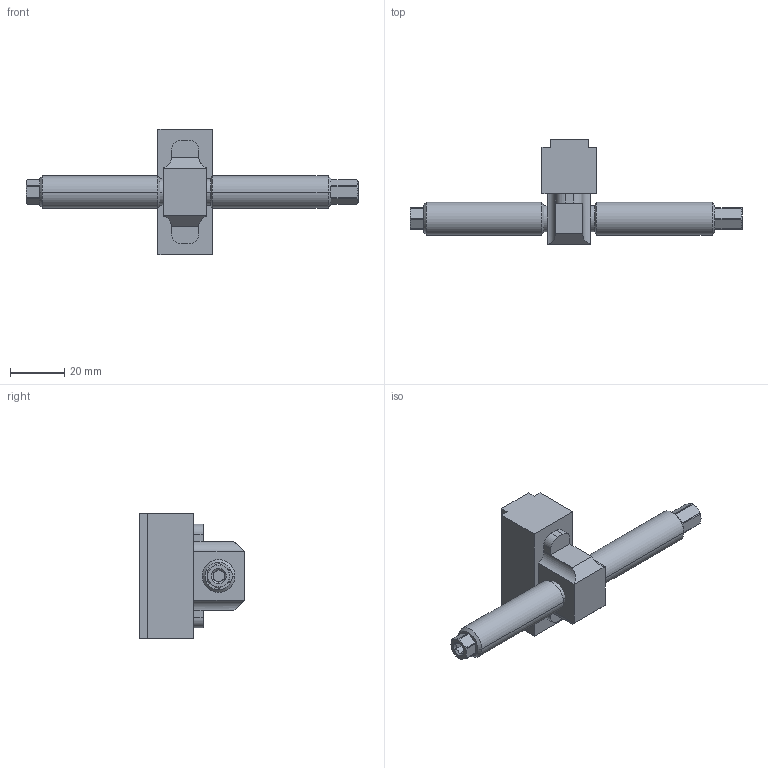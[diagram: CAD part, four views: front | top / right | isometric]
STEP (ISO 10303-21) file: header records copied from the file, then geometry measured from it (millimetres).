
FILE_DESCRIPTION (( 'STEP AP214' ), '1' );
FILE_NAME ('47105-TG.STEP', '2023-02-08T12:50:40', ( '' ), ( '' ), 'SwSTEP 2.0', 'SolidWorks 2021', '' );
FILE_SCHEMA (( 'AUTOMOTIVE_DESIGN' ));
Length unit declared in the file: millimetre
Products named in the file (1): 47105-TG
Bounding box: 122 x 38.8 x 46 mm (x, y, z)
Volume: 38069.9 mm3; surface area: 10892.4 mm2
Topology: 2 solids, 2 shells, 115 faces, 276 edges, 172 vertices
Faces by surface type: plane 57, cylinder 30, cone 28
Entity records: 4802 total; most frequent: CARTESIAN_POINT 840, ORIENTED_EDGE 552, DIRECTION 548, EDGE_CURVE 276, AXIS2_PLACEMENT_3D 196, VERTEX_POINT 172, VECTOR 156, LINE 156
